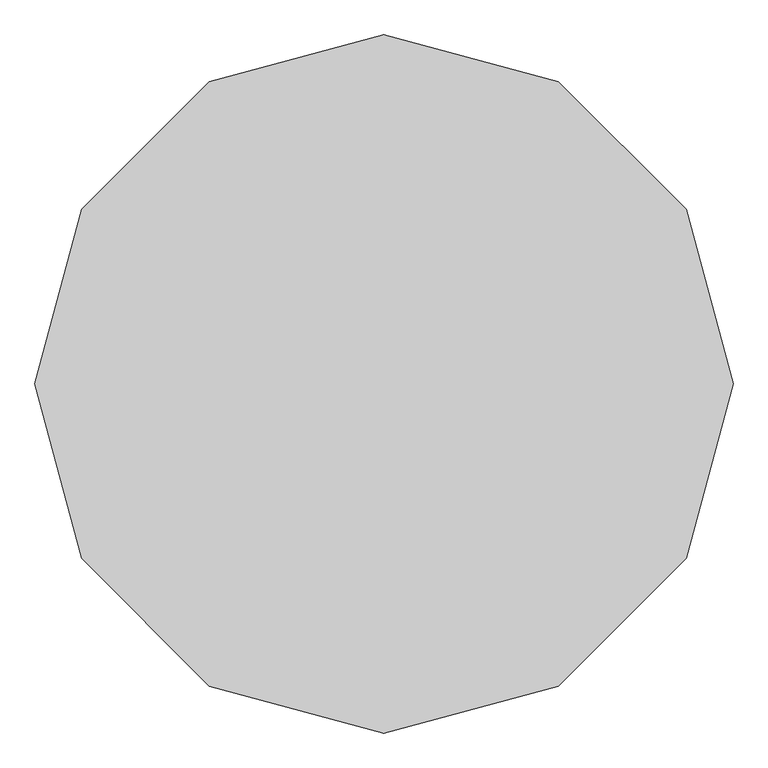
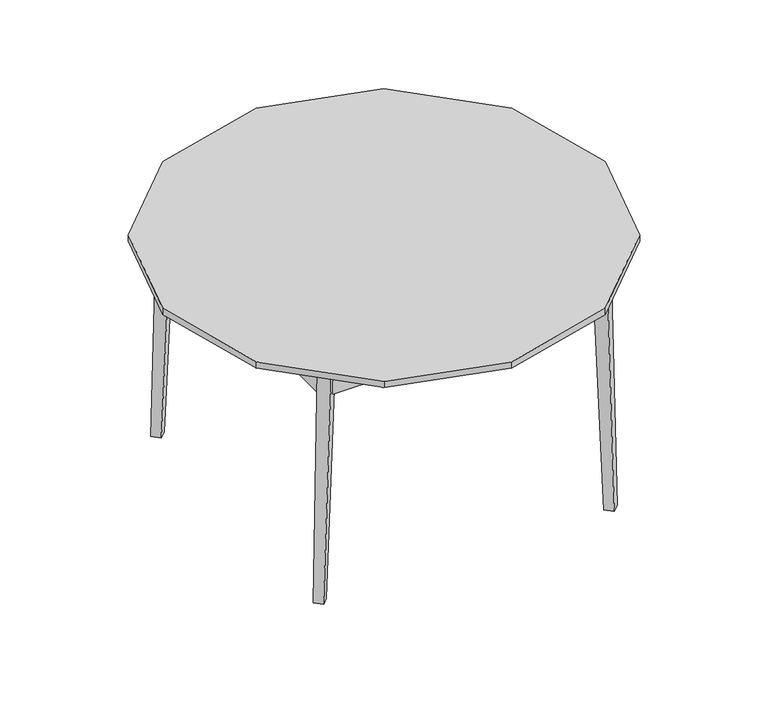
"""IFC4 building model written with IfcOpenShell, lengths in millimetres: geographic element geometry, Enscape AssetDefinition - Ease Round Table : Enscape AssetDefinition - Ease Round Table."""

from ifc_helpers import new_model, si_unit, origin, place, context, project, spatial, triangles, source, transform, mapped, element, save


def geographic_element_16dff3c8(model_context):
    return source(origin(), model_context, "Body", "Tessellation", [
        triangles([(0.0, -675.8049706, 762.0009447), (-675.8049706, 0.0, 742.0010027), (-675.8049706, 0.0, 762.0009447), (0.0, 675.8049706, 762.0009447), (-585.2640218, 337.9020129, 762.0009447), (-585.2640218, 337.9020129, 742.0010027), (-337.9020129, 585.2640218, 762.0009447), (337.9020129, 585.2640218, 762.0009447), (-337.9020129, 585.2640218, 742.0010027), (0.0, 675.8049706, 742.0010027), (337.9020129, 585.2640218, 742.0010027), (585.2640218, 337.9020129, 762.0009447), (585.2640218, 337.9020129, 742.0010027), (675.8049706, 0.0, 762.0009447), (675.8049706, 0.0, 742.0010027), (585.2640218, -337.9020129, 762.0009447), (337.9020129, -585.2640218, 742.0010027), (-337.9020129, -585.2640218, 762.0009447), (337.9020129, -585.2640218, 762.0009447), (0.0, -675.8049706, 742.0010027), (-585.2640218, -337.9020129, 742.0010027), (585.2640218, -337.9020129, 742.0010027), (-337.9020129, -585.2640218, 742.0010027), (-585.2640218, -337.9020129, 762.0009447), (413.4170257, -446.6839994, 0.0), (433.6870093, -466.9539831, 0.0), (433.6870093, -426.4140158, 0.0), (394.5379818, -420.4539871, 742.1569525), (422.4959773, -392.4959916, 742.1569525), (422.4959773, -448.412019, 742.1569525), (450.4530281, -420.4539871, 742.1569525), (453.956993, -446.6839994, 0.0), (437.6939959, -428.5139966, 655.3419754), (437.6939959, 429.0009945, 741.9999853), (437.6939959, -428.5139966, 741.9999853), (422.694003, -428.5139966, 741.9999853), (422.694003, -428.5139966, 655.3419754), (422.694003, 429.0009945, 655.3419754), (422.694003, 429.0009945, 741.9999853), (437.6939959, 429.0009945, 655.3419754), (466.9539831, 433.6870093, 0.0), (448.412019, 422.4959773, 742.1569525), (420.4539871, 394.5379818, 742.1569525), (420.4539871, 450.4530281, 742.1569525), (426.4140158, 433.6870093, 0.0), (392.4959916, 422.4959773, 742.1569525), (446.6839994, 413.4170257, 0.0), (446.6839994, 453.956993, 0.0), (-429.0009945, 437.6939959, 655.3419754), (428.5139966, 437.6939959, 741.9999853), (-429.0009945, 422.694003, 741.9999853), (-429.0009945, 437.6939959, 741.9999853), (428.5139966, 437.6939959, 655.3419754), (-429.0009945, 422.694003, 655.3419754), (428.5139966, 422.694003, 655.3419754), (428.5139966, 422.694003, 741.9999853), (-433.6870093, 466.9539831, 0.0), (-433.6870093, 426.4140158, 0.0), (-413.4170257, 446.6839994, 0.0), (-422.4959773, 392.4959916, 742.1569525), (-422.4959773, 448.412019, 742.1569525), (-394.5379818, 420.4539871, 742.1569525), (-450.4530281, 420.4539871, 742.1569525), (-453.956993, 446.6839994, 0.0), (-437.6939959, 428.5139966, 741.9999853), (-422.694003, 428.5139966, 741.9999853), (-422.2269894, -403.0869876, 744.7010559), (-438.1609732, -403.0869876, 744.7010559), (-437.6939959, 428.5139966, 655.3419754), (-422.694003, 428.5139966, 655.3419754), (-422.2269894, -403.0869876, 652.6419949), (-438.1609732, -403.0869876, 652.6419949), (-446.6839994, -413.4170257, 0.0), (-466.9539831, -433.6870093, 0.0), (-426.4140158, -433.6870093, 0.0), (-446.6839994, -453.956993, 0.0), (-420.4539871, -394.5379818, 742.1569525), (-392.4959916, -422.4959773, 742.1569525), (-448.412019, -422.4959773, 742.1569525), (-420.4539871, -450.4530281, 742.1569525), (429.0009945, -422.694003, 741.9999853), (429.0009945, -437.6939959, 741.9999853), (429.0009945, -437.6939959, 655.3419754), (-428.5139966, -437.6939959, 655.3419754), (-428.5139966, -422.694003, 655.3419754), (429.0009945, -422.694003, 655.3419754), (-428.5139966, -422.694003, 741.9999853), (-428.5139966, -437.6939959, 741.9999853)], [[86, 81, 83], [86, 85, 81], [81, 85, 87], [87, 88, 81], [87, 85, 88], [85, 86, 84], [84, 86, 83], [88, 85, 84], [83, 82, 84], [81, 88, 82], [83, 81, 82], [84, 82, 88], [80, 79, 76], [80, 78, 79], [79, 78, 77], [77, 73, 79], [78, 75, 77], [78, 80, 75], [77, 75, 73], [75, 80, 76], [76, 74, 75], [76, 79, 74], [79, 73, 74], [75, 74, 73], [71, 72, 70], [71, 67, 72], [71, 70, 67], [67, 70, 66], [66, 70, 65], [70, 72, 69], [65, 70, 69], [67, 66, 68], [72, 68, 69], [68, 66, 65], [72, 67, 68], [69, 68, 65], [63, 61, 64], [63, 60, 61], [61, 60, 62], [62, 59, 61], [60, 58, 62], [60, 63, 58], [62, 58, 59], [58, 63, 64], [64, 57, 58], [64, 61, 57], [61, 59, 57], [58, 57, 59], [54, 51, 49], [54, 55, 51], [51, 55, 56], [56, 50, 51], [56, 55, 50], [55, 54, 53], [53, 54, 49], [50, 55, 53], [49, 52, 53], [51, 50, 52], [49, 51, 52], [53, 52, 50], [44, 42, 48], [44, 46, 42], [42, 46, 43], [43, 47, 42], [46, 44, 45], [46, 45, 43], [45, 44, 48], [43, 45, 47], [48, 41, 45], [48, 42, 41], [42, 47, 41], [45, 41, 47], [38, 39, 40], [38, 37, 39], [39, 37, 36], [36, 35, 39], [36, 37, 35], [37, 38, 33], [33, 38, 40], [35, 37, 33], [40, 34, 33], [39, 35, 34], [40, 39, 34], [33, 34, 35], [31, 30, 32], [31, 29, 30], [30, 29, 28], [28, 25, 30], [29, 27, 28], [29, 31, 27], [28, 27, 25], [27, 31, 32], [32, 26, 27], [32, 30, 26], [30, 25, 26], [27, 26, 25], [2, 21, 3], [2, 6, 21], [21, 23, 24], [3, 21, 24], [24, 23, 18], [23, 20, 18], [20, 21, 22], [23, 21, 20], [17, 20, 22], [17, 22, 19], [20, 17, 1], [18, 1, 24], [18, 20, 1], [1, 17, 19], [19, 16, 1], [19, 22, 16], [22, 15, 16], [16, 15, 14], [16, 12, 1], [14, 12, 16], [15, 13, 14], [15, 22, 13], [14, 13, 12], [13, 11, 12], [12, 11, 8], [11, 10, 8], [6, 10, 21], [13, 22, 10], [11, 13, 10], [10, 22, 21], [9, 10, 6], [10, 9, 4], [8, 4, 12], [8, 10, 4], [9, 6, 7], [4, 9, 7], [6, 2, 5], [4, 5, 12], [24, 1, 5], [7, 5, 4], [3, 24, 5], [5, 2, 3], [7, 6, 5], [12, 5, 1]]),
    ])


if __name__ == "__main__":
    model = new_model("IFC4")
    model_context = context("Model", 3, world=origin())
    ifc_project = project(units=[si_unit("LENGTHUNIT", "METRE", prefix="MILLI")], contexts=[model_context])
    site = spatial("IfcSite", under=ifc_project)
    building = spatial("IfcBuilding", under=site)
    placement = place(None, origin())
    geographic_element_shape = geographic_element_16dff3c8(model_context)
    element("IfcGeographicElement", 1, ObjectType="Enscape AssetDefinition - Ease Round Table : Enscape AssetDefinition - Ease Round Table", at=placement, inside=building, context=model_context, shape_type="MappedRepresentation", body=[
        mapped(geographic_element_shape, transform((0.0, 0.0, 0.0), x_axis=(1.0, 0.0, 0.0), y_axis=(0.0, 1.0, 0.0), z_axis=(0.0, 0.0, 1.0))),
    ])
    save(model, "model.ifc")
